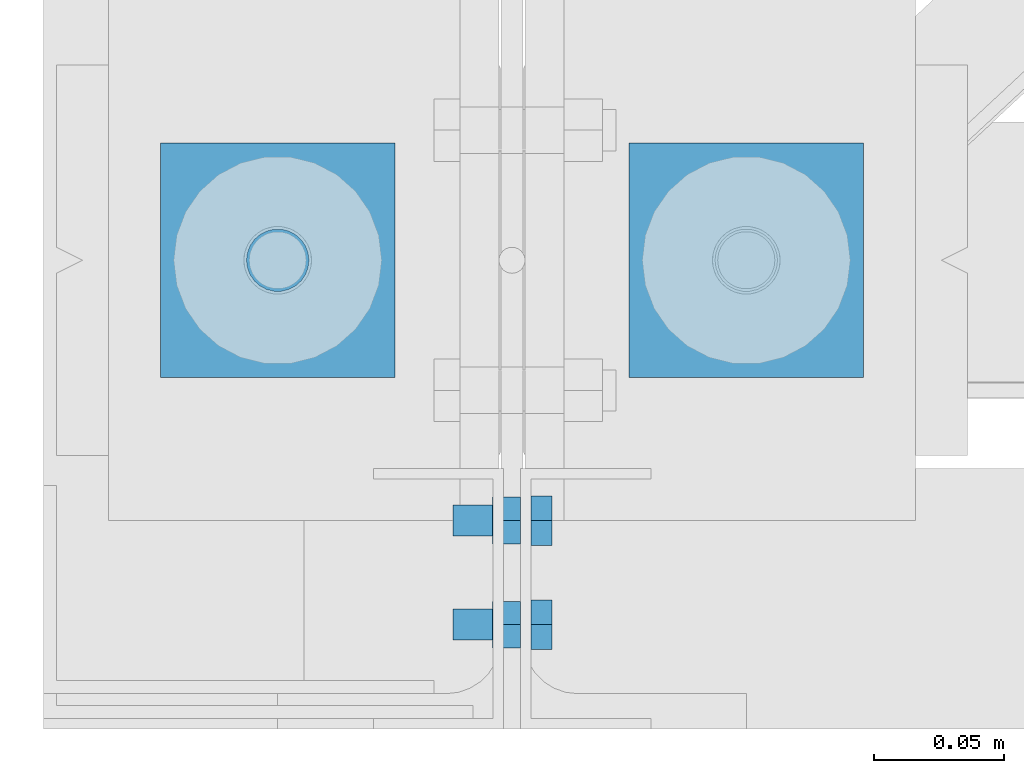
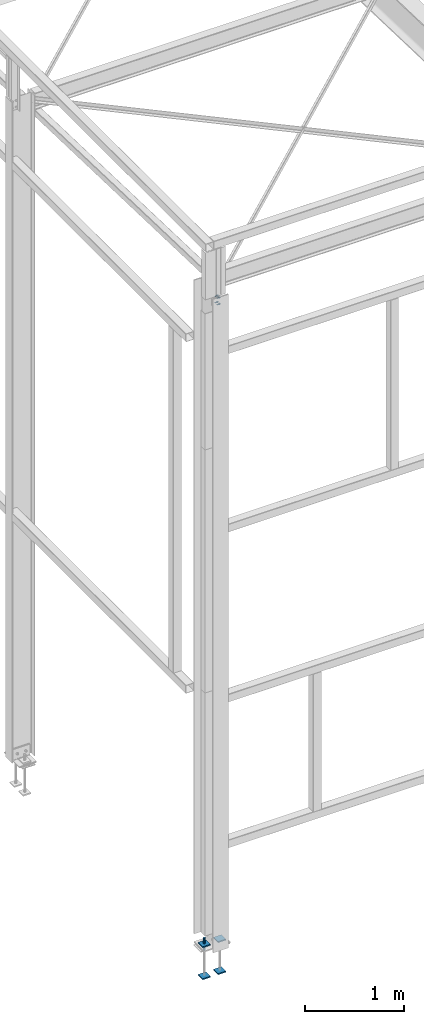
# One storey, part 58 of 123: 5 discrete accessories, 1 mechanical fastener, 2 elements without a shape of their own.
"""IFC2X3 building model written with IfcOpenShell, lengths in millimetres."""

from ifc_helpers import new_model, si_unit, frame, origin_with_axes, origin_2d_with_axis, place, context, subcontext, project, spatial, polyline, circle, outline, extrude, source, transform, mapped, material, type_object, element, aggregate, save


model = new_model("IFC2X3")

# Units and contexts
model_context = context("Model", 3, precision=1e-05, world=origin_with_axes())
body_context = subcontext(model_context, "Body", "Model", "MODEL_VIEW")
ifc_project = project(units=[si_unit("LENGTHUNIT", "METRE", prefix="MILLI"), si_unit("AREAUNIT", "SQUARE_METRE"), si_unit("VOLUMEUNIT", "CUBIC_METRE"), si_unit("MASSUNIT", "GRAM", prefix="KILO"), si_unit("TIMEUNIT", "SECOND"), si_unit("PLANEANGLEUNIT", "RADIAN"), si_unit("SOLIDANGLEUNIT", "STERADIAN"), si_unit("THERMODYNAMICTEMPERATUREUNIT", "DEGREE_CELSIUS"), si_unit("LUMINOUSINTENSITYUNIT", "LUMEN")], contexts=[model_context])

# Site, building, storey
site_placement = place(None, origin_with_axes())
site = spatial("IfcSite", under=ifc_project, at=site_placement, Name="Undefined", CompositionType="ELEMENT")
building_placement = place(site_placement, origin_with_axes())
building = spatial("IfcBuilding", under=site, at=building_placement, Name="Undefined", CompositionType="ELEMENT")
storey_placement = place(building_placement, origin_with_axes())
storey = spatial("IfcBuildingStorey", under=building, at=storey_placement, Name="Undefined", CompositionType="ELEMENT", Elevation=0.0)

# Assembly, mechanical fastener
assembly_1_placement = place(storey_placement, origin_with_axes())
assembly_1 = element("IfcElementAssembly", 1, at=assembly_1_placement, inside=storey, Name="Steel Assembly", AssemblyPlace="NOTDEFINED", PredefinedType="RIGID_FRAME")
ifc_material_1 = material(Name="8.8-SB-Z")
discrete_accessory_type_1 = type_object("IfcDiscreteAccessoryType", Name="Bolt assembly")
shared_shape = source(origin_with_axes(), body_context, "Body", "SweptSolid", [
    extrude(circle(Radius=7.0, at=origin_2d_with_axis()), frame((0.0, -7.29999995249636, 0.0), z_axis=(0.0, 1.0, 0.0), x_axis=(1.0, 0.0, 0.0)), (0.0, 0.0, 1.0), 4.1),
    extrude(outline(polyline([(10.96965511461, 0.0), (5.484827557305, 9.50000000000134), (-5.484827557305, 9.50000000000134), (-10.96965511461, 0.0), (-5.484827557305, -9.50000000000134), (5.484827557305, -9.50000000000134), (10.96965511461, 0.0)])), frame((0.0, -15.2999999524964, 0.0), z_axis=(0.0, 1.0, 0.0), x_axis=(1.0, 0.0, 0.0)), (0.0, 0.0, 1.0), 8.0),
    extrude(circle(Radius=6.0, at=origin_2d_with_axis()), frame((0.0, -7.29999995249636, 0.0), z_axis=(0.0, 1.0, 0.0), x_axis=(1.0, 0.0, 0.0)), (0.0, 0.0, 1.0), 30.0),
    extrude(outline(polyline([(10.39230484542, 0.0), (5.19615242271, 9.00000000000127), (-5.19615242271, 9.00000000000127), (-10.39230484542, 0.0), (-5.19615242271, -9.00000000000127), (5.19615242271, -9.00000000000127), (10.39230484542, 0.0)])), frame((0.0, -3.29999995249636, 0.0), z_axis=(0.0, 1.0, 0.0), x_axis=(1.0, 0.0, 0.0)), (0.0, 0.0, 1.0), 10.8),
])
mechanical_fastener_placement = place(assembly_1_placement, frame((7.68471326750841e-06, -120.000001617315, 7725.00301431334), z_axis=(0.0, -1.0, 0.0), x_axis=(0.0, 0.0, 1.0)))
mechanical_fastener = element("IfcMechanicalFastener", 2, at=mechanical_fastener_placement, type_object=discrete_accessory_type_1, material=ifc_material_1, Name="Bolt assembly", NominalDiameter=12.0, NominalLength=30.0, context=body_context, shape_type="MappedRepresentation", body=[
    mapped(shared_shape, transform((0.0, 0.0, -20.0))),
    mapped(shared_shape, transform((80.0, 0.0, -20.0))),
    mapped(shared_shape, transform((0.0, 0.0, 20.0))),
    mapped(shared_shape, transform((80.0, 0.0, 20.0))),
])
aggregate(assembly_1, [mechanical_fastener])

# Assembly, discrete accessories
assembly_2_placement = place(storey_placement, origin_with_axes())
assembly_2 = element("IfcElementAssembly", 3, at=assembly_2_placement, inside=storey, Name="Steel Assembly", AssemblyPlace="NOTDEFINED", PredefinedType="RIGID_FRAME")
ifc_material_2 = material(Name="STEEL/S235-E24")
discrete_accessory_type_2 = type_object("IfcDiscreteAccessoryType", Name="PLAQUETTE")
discrete_accessory_1_placement = place(assembly_2_placement, frame((-45.0028495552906, -45.0, -227.5), z_axis=(0.0, 0.0, 1.0), x_axis=(0.0, 1.0, 0.0)))
discrete_accessory_1 = element("IfcDiscreteAccessory", 4, at=discrete_accessory_1_placement, type_object=discrete_accessory_type_2, material=ifc_material_2, Name="PLAQUETTE", ObjectType="PL15*90", context=body_context, shape_type="SweptSolid", body=[
    extrude(outline(polyline([(0.0, 0.0), (90.0, 0.0), (90.0, 90.0), (0.0, 90.0), (0.0, 0.0)])), frame((0.0, 0.0, -7.5), z_axis=(0.0, 0.0, 1.0), x_axis=(1.0, 0.0, 0.0)), (0.0, 0.0, 1.0), 15.0),
])
discrete_accessory_2_placement = place(assembly_2_placement, frame((134.997150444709, -45.0, -227.5), z_axis=(0.0, 0.0, 1.0), x_axis=(0.0, 1.0, 0.0)))
discrete_accessory_2 = element("IfcDiscreteAccessory", 5, at=discrete_accessory_2_placement, type_object=discrete_accessory_type_2, material=ifc_material_2, Name="PLAQUETTE", ObjectType="PL15*90", context=body_context, shape_type="SweptSolid", body=[
    extrude(outline(polyline([(0.0, 0.0), (90.0, 0.0), (90.0, 90.0), (0.0, 90.0), (0.0, 0.0)])), frame((0.0, 0.0, -7.5), z_axis=(0.0, 0.0, 1.0), x_axis=(1.0, 0.0, 0.0)), (0.0, 0.0, 1.0), 15.0),
])
discrete_accessory_3_placement = place(assembly_2_placement, frame((-45.0028495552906, -45.0, -622.5), z_axis=(0.0, 0.0, 1.0), x_axis=(0.0, 1.0, 0.0)))
discrete_accessory_3 = element("IfcDiscreteAccessory", 6, at=discrete_accessory_3_placement, type_object=discrete_accessory_type_2, material=ifc_material_2, Name="PLAQUETTE", ObjectType="PL15*90", context=body_context, shape_type="SweptSolid", body=[
    extrude(outline(polyline([(0.0, 0.0), (90.0, 0.0), (90.0, 90.0), (0.0, 90.0), (0.0, 0.0)])), frame((0.0, 0.0, -7.5), z_axis=(0.0, 0.0, 1.0), x_axis=(1.0, 0.0, 0.0)), (0.0, 0.0, 1.0), 15.0),
])
discrete_accessory_4_placement = place(assembly_2_placement, frame((134.997150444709, -45.0, -622.5), z_axis=(0.0, 0.0, 1.0), x_axis=(0.0, 1.0, 0.0)))
discrete_accessory_4 = element("IfcDiscreteAccessory", 7, at=discrete_accessory_4_placement, type_object=discrete_accessory_type_2, material=ifc_material_2, Name="PLAQUETTE", ObjectType="PL15*90", context=body_context, shape_type="SweptSolid", body=[
    extrude(outline(polyline([(0.0, 0.0), (90.0, 0.0), (90.0, 90.0), (0.0, 90.0), (0.0, 0.0)])), frame((0.0, 0.0, -7.5), z_axis=(0.0, 0.0, 1.0), x_axis=(1.0, 0.0, 0.0)), (0.0, 0.0, 1.0), 15.0),
])
discrete_accessory_type_3 = type_object("IfcDiscreteAccessoryType", Name="TIGE D'ANCRAGE")
discrete_accessory_5_placement = place(assembly_2_placement, frame((-90.0028495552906, 0.0, -150.0), z_axis=(0.0, 1.0, 0.0), x_axis=(0.0, 0.0, -1.0)))
discrete_accessory_5 = element("IfcDiscreteAccessory", 8, at=discrete_accessory_5_placement, type_object=discrete_accessory_type_3, material=ifc_material_2, Name="TIGE D'ANCRAGE", ObjectType="D24", context=body_context, shape_type="SweptSolid", body=[
    extrude(circle(Radius=12.0, at=origin_2d_with_axis()), frame((150.0, 0.0, 0.0), z_axis=(-1.0, 0.0, 0.0), x_axis=(0.0, -1.0, 0.0)), (0.0, 0.0, 1.0), 150.0),
])
aggregate(assembly_2, [discrete_accessory_1, discrete_accessory_2, discrete_accessory_3, discrete_accessory_4, discrete_accessory_5])

save(model, "model.ifc")
